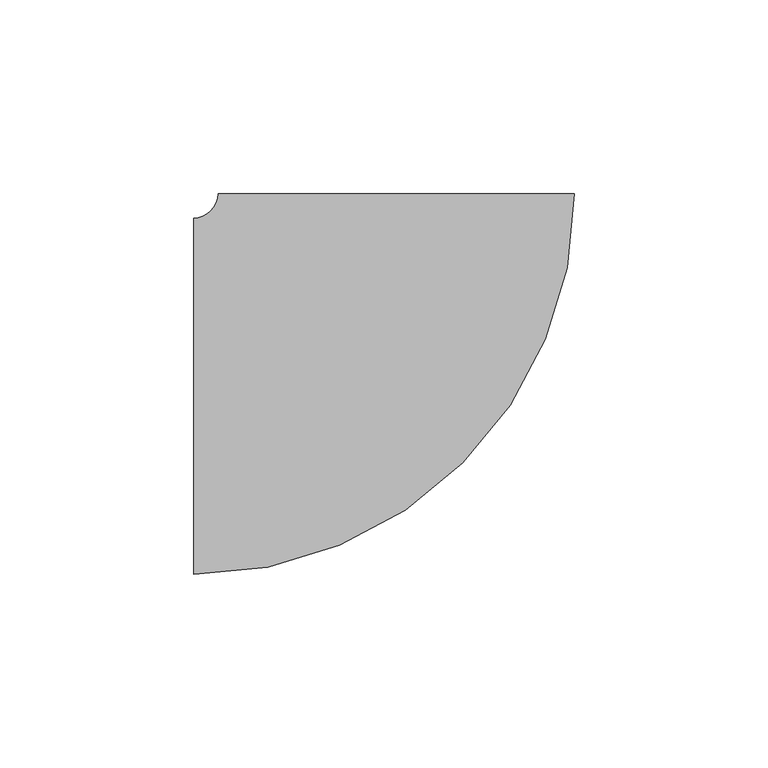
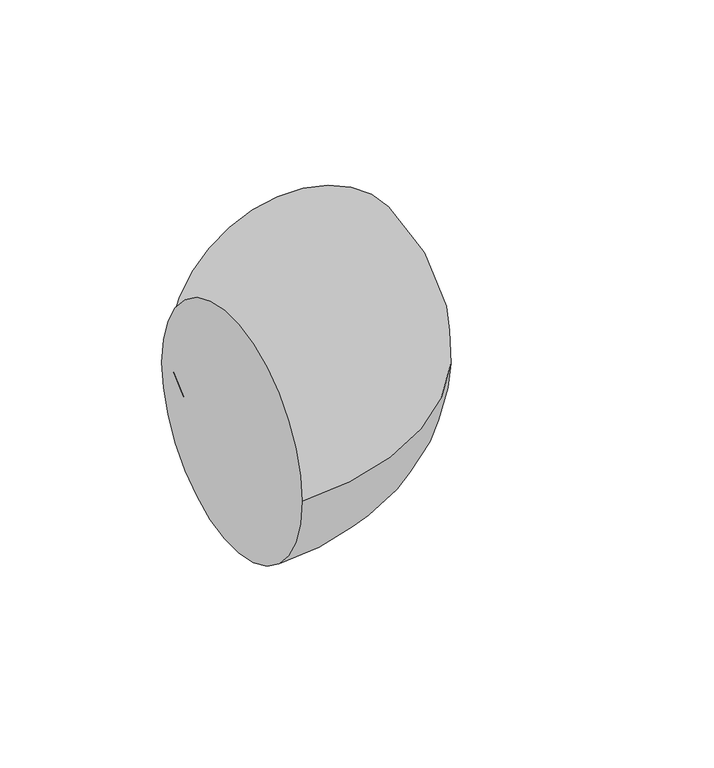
"""IFC4 building model written with IfcOpenShell, lengths in millimetres: pipe fitting geometry, M_Codo - Genérico : Estándar."""

from ifc_helpers import new_model, si_unit, point, frame, origin, place, context, project, spatial, circle_curve, ellipse_curve, trimmed, source, transform, mapped, element, save
from ifc_brep_helpers import plane_surface, revolved_surface, advanced_brep


def pipe_fitting_050630e5(model_context):
    return source(origin(), model_context, "Body", "AdvancedBrep", [
        advanced_brep(
        [(-52.387512, -46.0375, 0.0), (-52.387512, 46.0375, 0.0), (46.037488, 52.3875226, 0.0), (-46.037512, 52.3875015, 0.0)],
        [
            (0, 1, circle_curve(frame((-52.387512, 0.0, 0.0), z_axis=(-1.0, 0.0, 0.0), x_axis=(0.0, 1.0, 0.0)), 46.0375)),
            (1, 0, circle_curve(frame((-52.387512, 0.0, 0.0), z_axis=(-1.0, 0.0, 0.0), x_axis=(0.0, 1.0, 0.0)), 46.0375)),
            (2, 3, circle_curve(frame((-1.2e-05, 52.387512, 0.0), z_axis=(-2.2989025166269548e-07, 0.9999999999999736, 0.0), x_axis=(-0.9999999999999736, -2.2989025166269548e-07, 0.0)), 46.0375)),
            (3, 2, circle_curve(frame((-1.2e-05, 52.387512, 0.0), z_axis=(-2.2989025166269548e-07, 0.9999999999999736, 0.0), x_axis=(-0.9999999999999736, -2.2989025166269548e-07, 0.0)), 46.0375)),
            (3, 1, circle_curve(frame((-52.387512, 52.3875, 0.0), z_axis=(0.0, 0.0, -1.0), x_axis=(0.0, -1.0, 0.0)), 6.35)),
            (0, 2, circle_curve(frame((-52.387512, 52.3875, 0.0), z_axis=(0.0, 0.0, 1.0), x_axis=(0.0, -1.0, 0.0)), 98.425)),
        ],
        [
            plane_surface(frame((-52.387512, 0.0, 0.0), z_axis=(-1.0, 0.0, 0.0), x_axis=(0.0, 0.0, 1.0))),
            plane_surface(frame((-1.2e-05, 52.387512, 0.0), z_axis=(-2.2989025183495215e-07, 0.9999999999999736, 0.0), x_axis=(0.0, 0.0, 1.0))),
            revolved_surface(trimmed(ellipse_curve(frame((-52.387512, 0.0, 0.0), z_axis=(-1.0, 0.0, 0.0), x_axis=(0.0, 1.0, 0.0)), 46.0375, 46.0375), [point((-52.387512, -46.0375, 0.0))], [point((-52.387512, 46.0375, 0.0))], True, "CARTESIAN"), (-52.387512, 52.3875, 0.0), (0.0, 0.0, 1.0)),
            revolved_surface(trimmed(ellipse_curve(frame((-52.387512, 0.0, 0.0), z_axis=(-1.0, 0.0, 0.0), x_axis=(0.0, 1.0, 0.0)), 46.0375, 46.0375), [point((-52.387512, 46.0375, 0.0))], [point((-52.387512, -46.0375, 0.0))], True, "CARTESIAN"), (-52.387512, 52.3875, 0.0), (0.0, 0.0, 1.0)),
        ],
        [
            (0, [[1, 2]]),
            (1, [[3, 4]]),
            (2, [[5, -1, 6, -4]]),
            (3, [[-6, -2, -5, -3]]),
        ],
    ),
    ])


if __name__ == "__main__":
    model = new_model("IFC4")
    model_context = context("Model", 3, world=origin())
    ifc_project = project(units=[si_unit("LENGTHUNIT", "METRE", prefix="MILLI")], contexts=[model_context])
    site = spatial("IfcSite", under=ifc_project)
    building = spatial("IfcBuilding", under=site)
    placement = place(None, origin())
    pipe_fitting_shape = pipe_fitting_050630e5(model_context)
    element("IfcPipeFitting", 1, ObjectType="M_Codo - Genérico : Estándar", at=placement, inside=building, context=model_context, shape_type="MappedRepresentation", body=[
        mapped(pipe_fitting_shape, transform((0.0, 0.0, 0.0), x_axis=(1.0, 0.0, 0.0), y_axis=(0.0, 1.0, 0.0), z_axis=(0.0, 0.0, 1.0))),
    ])
    save(model, "model.ifc")
